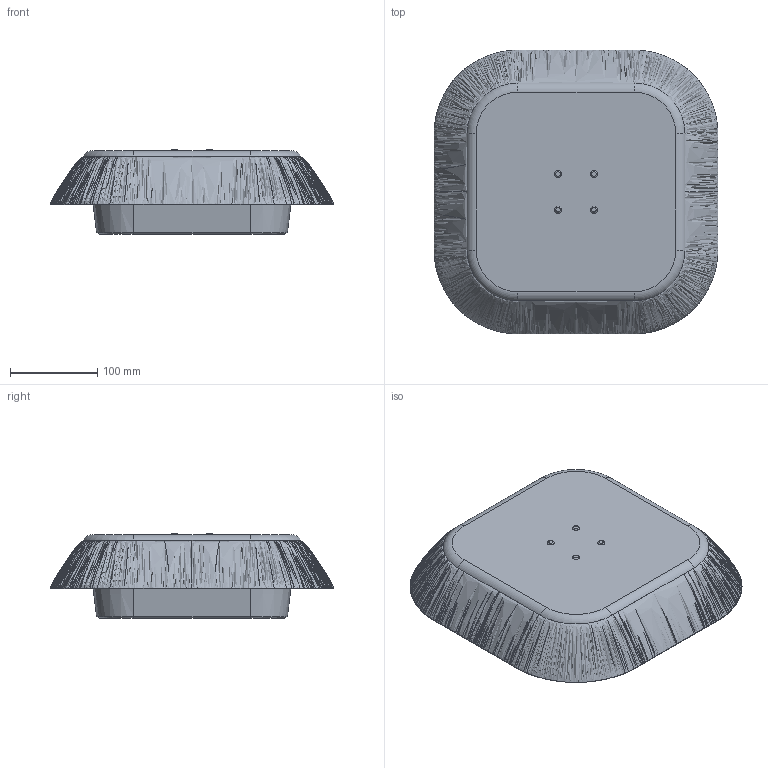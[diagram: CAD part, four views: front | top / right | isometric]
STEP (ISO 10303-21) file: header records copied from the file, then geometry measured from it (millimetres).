
FILE_DESCRIPTION(/* description */ ('STEP AP214'),/* implementation_level */ '2;1');
FILE_NAME(/* name */ 'EXO.M ELECTRIC - TP19.stp',/* time_stamp */ '2025-01-29T15:00:41+01:00',/* author */ ('cocu'),/* organization */ (''),/* preprocessor_version */ 'ST-DEVELOPER v19.2',/* originating_system */ 'Autodesk Inventor 2023',/* authorisation */ '');
FILE_SCHEMA (('AUTOMOTIVE_DESIGN { 1 0 10303 214 3 1 1 }'));
Length unit declared in the file: millimetre
Products named in the file (4): TP19; DT-03203DSI_Semplificato; DT-03206DSI_semplificata; RV-UNI9200-A4X8_semplificata
Assembly tree (6 placements, depth 2):
  TP19
    DT-03203DSI_Semplificato
    DT-03206DSI_semplificata
    RV-UNI9200-A4X8_semplificata  x4
Bounding box: 324.56 x 324.56 x 96.92 mm (x, y, z)
Volume: 3273135.1 mm3; surface area: 412393.8 mm2
Topology: 6 solids, 6 shells, 125 faces, 279 edges, 182 vertices
Faces by surface type: plane 52, cylinder 29, torus 18, cone 16, bspline 10
Full cylindrical faces by diameter (mm): 4.2 x8, 6 x4
Entity records: 22115 total; most frequent: CARTESIAN_POINT 19192, DIRECTION 627, ORIENTED_EDGE 540, EDGE_CURVE 270, AXIS2_PLACEMENT_3D 247, VERTEX_POINT 176, LINE 133, VECTOR 133
